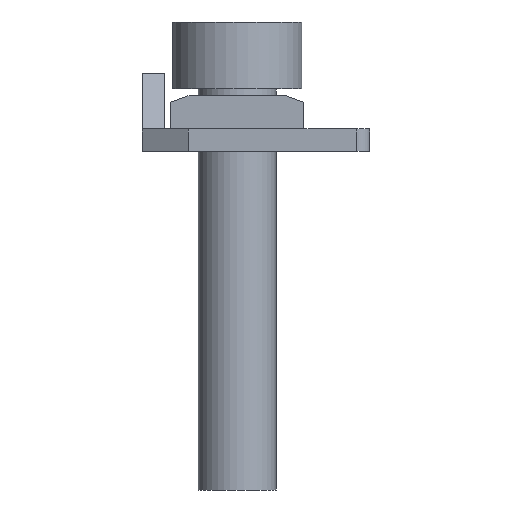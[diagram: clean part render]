
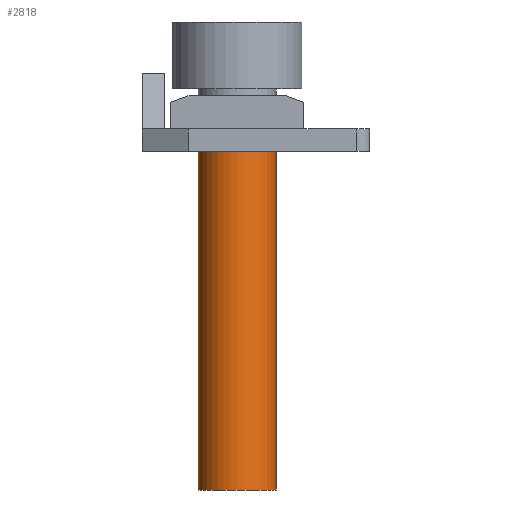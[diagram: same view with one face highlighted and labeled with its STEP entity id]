
A CAD part, left-side view. The second image highlights one B-rep face of the part: STEP entity #2818.
In plain terms, the highlighted cylindrical face has radius 1.75 mm (diameter 3.5 mm), a partial arc.
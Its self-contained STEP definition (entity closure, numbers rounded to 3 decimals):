
#2539=CARTESIAN_POINT('',(-31.85,64.25,0.2));
#2540=VERTEX_POINT('',#2539);
#2541=CARTESIAN_POINT('',(-31.85,67.75,0.2));
#2542=VERTEX_POINT('',#2541);
#2543=CARTESIAN_POINT('',(-31.85,66.,0.2));
#2544=DIRECTION('',(0.,-1.,0.));
#2545=DIRECTION('',(0.,0.,-1.));
#2546=AXIS2_PLACEMENT_3D('',#2543,#2545,#2544);
#2547=CIRCLE('',#2546,1.75);
#2548=EDGE_CURVE('',#2540,#2542,#2547,.T.);
#2787=CARTESIAN_POINT('',(-31.85,66.,0.2));
#2788=DIRECTION('',(0.,1.,0.));
#2789=DIRECTION('',(0.,0.,-1.));
#2790=AXIS2_PLACEMENT_3D('',#2787,#2789,#2788);
#2791=CYLINDRICAL_SURFACE('',#2790,1.75);
#2792=ORIENTED_EDGE('',*,*,#2548,.T.);
#2793=CARTESIAN_POINT('',(-31.85,67.75,-16.));
#2794=VERTEX_POINT('',#2793);
#2795=CARTESIAN_POINT('',(-31.85,67.75,0.2));
#2796=DIRECTION('',(0.,0.,-1.));
#2797=VECTOR('',#2796,16.2);
#2798=LINE('',#2795,#2797);
#2799=EDGE_CURVE('',#2542,#2794,#2798,.T.);
#2800=ORIENTED_EDGE('E26',*,*,#2799,.T.);
#2801=CARTESIAN_POINT('',(-31.85,64.25,-16.));
#2802=VERTEX_POINT('',#2801);
#2803=CARTESIAN_POINT('',(-31.85,66.,-16.));
#2804=DIRECTION('',(0.,-1.,0.));
#2805=DIRECTION('',(0.,0.,-1.));
#2806=AXIS2_PLACEMENT_3D('',#2803,#2805,#2804);
#2807=CIRCLE('',#2806,1.75);
#2808=EDGE_CURVE('',#2802,#2794,#2807,.T.);
#2809=ORIENTED_EDGE('E14',*,*,#2808,.F.);
#2810=CARTESIAN_POINT('',(-31.85,64.25,-16.));
#2811=DIRECTION('',(0.,0.,1.));
#2812=VECTOR('',#2811,16.2);
#2813=LINE('',#2810,#2812);
#2814=EDGE_CURVE('',#2802,#2540,#2813,.T.);
#2815=ORIENTED_EDGE('E27',*,*,#2814,.T.);
#2816=EDGE_LOOP('',(#2792,#2800,#2809,#2815));
#2817=FACE_OUTER_BOUND('',#2816,.T.);
#2818=ADVANCED_FACE('F7',(#2817),#2791,.T.);
